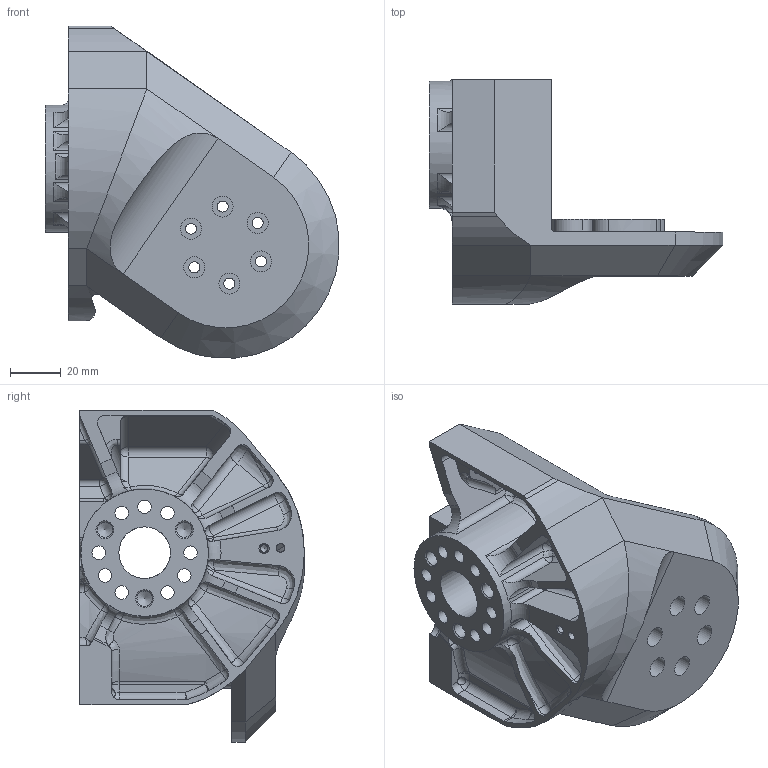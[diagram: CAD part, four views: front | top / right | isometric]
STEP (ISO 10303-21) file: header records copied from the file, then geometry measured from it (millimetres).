
FILE_DESCRIPTION(/* description */ ('STEP AP242 Edition 2','CAx-IF Rec.Pracs.---Representation and Presentation of Product Manufacturing Information (PMI)---4.0---2014-10-13','CAx-IF Rec.Pracs.---3D Tessellated Geometry---0.4---2014-09-14','2;1','CAx-IF Rec.Pracs.---User Defined Attributes---1.5---2016-08-15'),/* implementation_level */ '2;1');
FILE_NAME(/* name */ 'Assy_ForMFG - KD-D-102L_L_Hip_Yoke_Drive',/* time_stamp */ '2026-05-15T19:56:33Z',/* author */ (''),/* organization */ (''),/* preprocessor_version */ 'ST-DEVELOPER v20',/* originating_system */ 'ONSHAPE BY PTC INC, 1.215',/* authorisation */ ' ');
FILE_SCHEMA (('AP242_MANAGED_MODEL_BASED_3D_ENGINEERING_MIM_LF { 1 0 10303 442 3 1 4 }'));
Length unit declared in the file: metre
Products named in the file (1): KD-D-102L_L_Hip_Yoke_Drive
Bounding box: 115.31 x 88.2 x 130.31 mm (x, y, z)
Volume: 136336.2 mm3; surface area: 69988.4 mm2
Topology: 1 solids, 2 shells, 496 faces, 1271 edges, 736 vertices
Faces by surface type: cylinder 194, bspline 119, plane 87, sphere 40, torus 29, cone 27
Full cylindrical faces by diameter (mm): 3 x3, 3.3 x2, 4 x3, 4.2 x3, 4.3 x6, 5.3 x9, 6 x3, 8.25 x6, 19.11 x1, 20.25 x1, 50 x1
Entity records: 16188 total; most frequent: CARTESIAN_POINT 5392, ORIENTED_EDGE 2258, DIRECTION 2167, EDGE_CURVE 1129, AXIS2_PLACEMENT_3D 923, VERTEX_POINT 712, FACE_BOUND 611, EDGE_LOOP 601
